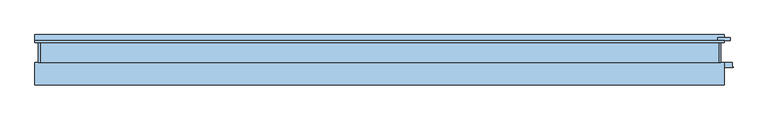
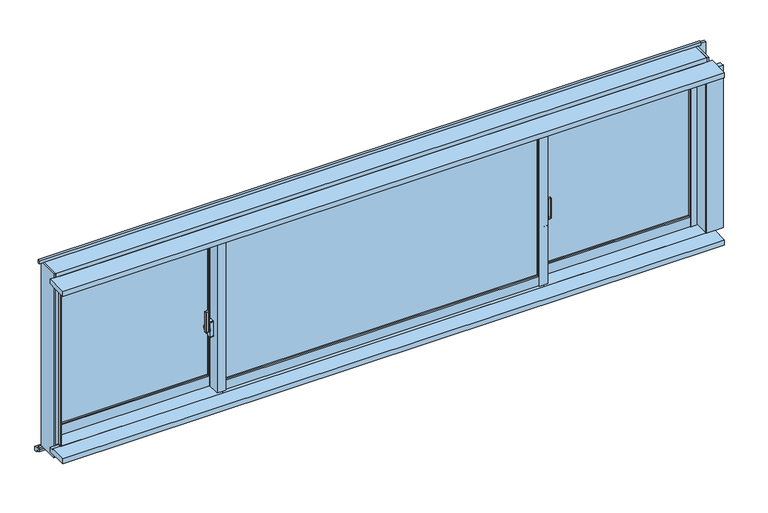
"""IFC4 building model written with IfcOpenShell, lengths in millimetres: window geometry, FNSⅡ100R_非防火_ALC枠_単窓 : 両袖片引."""

from ifc_helpers import new_model, si_unit, point, frame, frame_2d, origin, place, context, project, spatial, polyline, circle_curve, trimmed, segment, composite_curve, outline, extrude, faceted_brep, source, transform, mapped, element, save
from ifc_brep_helpers import plane_surface, cylinder_surface, revolved_surface, advanced_brep


def window_535b2269(model_context):
    return source(origin(), model_context, "Body", "SolidModel", [
        extrude(outline(polyline([(770.0, 62.0), (1468.0, 62.0), (1468.0, 56.0), (770.0, 56.0), (770.0, 62.0)])), frame((0.0, 0.0, 948.0), z_axis=(0.0, 0.0, 1.0), x_axis=(1.0, 0.0, 0.0)), (0.0, 0.0, 1.0), 712.0),
        extrude(outline(polyline([(770.0, 80.0), (1468.0, 80.0), (1468.0, 74.0), (770.0, 74.0), (770.0, 80.0)])), frame((0.0, 0.0, 948.0), z_axis=(0.0, 0.0, 1.0), x_axis=(1.0, 0.0, 0.0)), (0.0, 0.0, 1.0), 712.0),
        extrude(outline(composite_curve([segment(trimmed(circle_curve(frame_2d((791.0, 20.6)), 2.0), [point((789.0, 20.6))], [point((791.3606557, 22.5672131))], False, "CARTESIAN"), True, "CONTINUOUS"), segment(polyline([(791.3606557, 22.5672131), (802.3606557, 20.5505464)]), True, "CONTINUOUS"), segment(trimmed(circle_curve(frame_2d((802.0, 18.5833333)), 2.0), [point((802.3606557, 20.5505464))], [point((804.0, 18.5833333))], False, "CARTESIAN"), True, "CONTINUOUS"), segment(polyline([(804.0, 18.5833333), (804.0, 14.4166667)]), True, "CONTINUOUS"), segment(trimmed(circle_curve(frame_2d((802.0, 14.4166667)), 2.0), [point((804.0, 14.4166667))], [point((802.3606557, 12.4494536))], False, "CARTESIAN"), True, "CONTINUOUS"), segment(polyline([(802.3606557, 12.4494536), (791.3606557, 10.4327869)]), True, "CONTINUOUS"), segment(trimmed(circle_curve(frame_2d((791.0, 12.4)), 2.0), [point((791.3606557, 10.4327869))], [point((789.0, 12.4))], False, "CARTESIAN"), True, "CONTINUOUS"), segment(polyline([(789.0, 12.4), (789.0, 20.6)]), True, "CONTINUOUS")], self_intersect=False)), frame((0.0, 0.0, 1190.0), z_axis=(0.0, 0.0, 1.0), x_axis=(1.0, 0.0, 0.0)), (0.0, 0.0, 1.0), 100.0),
        advanced_brep(
        [(789.0, 22.6466117, 1179.3190372), (789.0, 21.4310745, 1186.2126915), (787.5, 21.4310745, 1186.2126915), (787.5, 22.907084, 1177.8418256), (795.5, 22.907084, 1177.8418256), (795.5, 22.6466117, 1179.3190372), (795.5, 24.8234285, 1221.7333311), (787.5, 24.8234285, 1221.7333311), (795.5, 24.4351999, 1220.2844424), (789.0, 24.4351999, 1220.2844424), (789.0, 22.6234666, 1213.5229616), (787.5, 22.6234666, 1213.5229616)],
        [
            (0, 1),
            (1, 2),
            (2, 3),
            (3, 4),
            (4, 5),
            (5, 0),
            (6, 4, circle_curve(frame((795.5, 19.0, 1200.0), z_axis=(-1.0, 0.0, 0.0), x_axis=(0.0, 0.25881904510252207, 0.965925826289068)), 22.5)),
            (3, 7, circle_curve(frame((787.5, 19.0, 1200.0), z_axis=(1.0, 0.0, 0.0), x_axis=(0.0, 0.25881904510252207, 0.965925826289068)), 22.5)),
            (7, 6),
            (8, 5, circle_curve(frame((795.5, 19.0, 1200.0), z_axis=(-1.0, 0.0, 0.0), x_axis=(0.0, 0.25881904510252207, 0.965925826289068)), 21.0)),
            (6, 8),
            (9, 0, circle_curve(frame((789.0, 19.0, 1200.0), z_axis=(-1.0, 0.0, 0.0), x_axis=(0.0, 0.25881904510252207, 0.965925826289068)), 21.0)),
            (8, 9),
            (9, 10),
            (10, 1, circle_curve(frame((789.0, 19.0, 1200.0), z_axis=(1.0, 0.0, 0.0), x_axis=(0.0, -1.0, 0.0)), 14.0)),
            (7, 11),
            (11, 10),
            (2, 11, circle_curve(frame((787.5, 19.0, 1200.0), z_axis=(-1.0, 0.0, 0.0), x_axis=(0.0, -1.0, 0.0)), 14.0)),
        ],
        [
            plane_surface(frame((793.5470497, 19.0, 1200.0), z_axis=(0.0, -0.9848077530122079, -0.17364817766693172), x_axis=(0.0, 0.17364817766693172, -0.9848077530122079))),
            cylinder_surface(frame((793.5470497, 19.0, 1200.0), z_axis=(1.0, 0.0, 0.0), x_axis=(0.0, 0.25881904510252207, 0.965925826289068)), 22.5),
            plane_surface(frame((795.5, 19.0, 1200.0), z_axis=(1.0, 0.0, 0.0), x_axis=(0.0, 0.25881904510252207, 0.965925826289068))),
            revolved_surface(polyline([(795.5, 24.435199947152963, 1220.2844423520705), (789.0, 24.435199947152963, 1220.2844423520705)]), (793.5470497, 19.0, 1200.0), (1.0, 0.0, 0.0)),
            plane_surface(frame((789.0, 19.0, 1200.0), z_axis=(1.0, 0.0, 0.0), x_axis=(0.0, 0.25881904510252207, 0.965925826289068))),
            plane_surface(frame((793.5470497, 19.0, 1200.0), z_axis=(0.0, -0.965925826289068, 0.25881904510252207), x_axis=(0.0, 0.25881904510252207, 0.965925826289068))),
            plane_surface(frame((787.5, 19.0, 1200.0), z_axis=(-1.0, 0.0, 0.0), x_axis=(0.0, 0.25881904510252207, 0.965925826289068))),
            cylinder_surface(frame((787.5, 19.0, 1200.0), z_axis=(1.0, 0.0, 0.0), x_axis=(0.0, -1.0, 0.0)), 14.0),
        ],
        [
            (0, [[1, 2, 3, 4, 5, 6]]),
            (1, [[7, -4, 8, 9]]),
            (2, [[10, -5, -7, 11]]),
            (3, [[12, -6, -10, 13]]),
            (4, [[14, 15, -1, -12]]),
            (5, [[16, 17, -14, -13, -11, -9]]),
            (6, [[-3, 18, -16, -8]]),
            (7, [[-17, -18, -2, -15]]),
        ],
    ),
        extrude(outline(composite_curve([segment(trimmed(circle_curve(frame_2d((19.0, 1200.0)), 11.5), [point((30.5, 1200.0))], [point((7.5, 1200.0))], False, "CARTESIAN"), True, "CONTINUOUS"), segment(trimmed(circle_curve(frame_2d((19.0, 1200.0)), 11.5), [point((7.5, 1200.0))], [point((30.5, 1200.0))], False, "CARTESIAN"), True, "CONTINUOUS")], self_intersect=False)), frame((785.0, 0.0, 0.0), z_axis=(1.0, 0.0, 0.0), x_axis=(0.0, 1.0, 0.0)), (0.0, 0.0, 1.0), 2.5),
        extrude(outline(composite_curve([segment(polyline([(10.0, 1237.5), (28.0, 1237.5)]), True, "CONTINUOUS"), segment(trimmed(circle_curve(frame_2d((28.0, 1235.5)), 2.0), [point((28.0, 1237.5))], [point((30.0, 1235.5))], False, "CARTESIAN"), True, "CONTINUOUS"), segment(polyline([(30.0, 1235.5), (30.0, 1164.5)]), True, "CONTINUOUS"), segment(trimmed(circle_curve(frame_2d((28.0, 1164.5)), 2.0), [point((30.0, 1164.5))], [point((28.0, 1162.5))], False, "CARTESIAN"), True, "CONTINUOUS"), segment(polyline([(28.0, 1162.5), (10.0, 1162.5)]), True, "CONTINUOUS"), segment(trimmed(circle_curve(frame_2d((10.0, 1164.5)), 2.0), [point((10.0, 1162.5))], [point((8.0, 1164.5))], False, "CARTESIAN"), True, "CONTINUOUS"), segment(polyline([(8.0, 1164.5), (8.0, 1235.5)]), True, "CONTINUOUS"), segment(trimmed(circle_curve(frame_2d((10.0, 1235.5)), 2.0), [point((8.0, 1235.5))], [point((10.0, 1237.5))], False, "CARTESIAN"), True, "CONTINUOUS")], self_intersect=False)), frame((770.0, 0.0, 0.0), z_axis=(1.0, 0.0, 0.0), x_axis=(0.0, 1.0, 0.0)), (0.0, 0.0, 1.0), 15.0),
        extrude(outline(composite_curve([segment(polyline([(-789.0, 20.6), (-789.0, 12.4)]), True, "CONTINUOUS"), segment(trimmed(circle_curve(frame_2d((-791.0, 12.4)), 2.0), [point((-789.0, 12.4))], [point((-791.3606557, 10.4327869))], False, "CARTESIAN"), True, "CONTINUOUS"), segment(polyline([(-791.3606557, 10.4327869), (-802.3606557, 12.4494536)]), True, "CONTINUOUS"), segment(trimmed(circle_curve(frame_2d((-802.0, 14.4166667)), 2.0), [point((-802.3606557, 12.4494536))], [point((-804.0, 14.4166667))], False, "CARTESIAN"), True, "CONTINUOUS"), segment(polyline([(-804.0, 14.4166667), (-804.0, 18.5833333)]), True, "CONTINUOUS"), segment(trimmed(circle_curve(frame_2d((-802.0, 18.5833333)), 2.0), [point((-804.0, 18.5833333))], [point((-802.3606557, 20.5505464))], False, "CARTESIAN"), True, "CONTINUOUS"), segment(polyline([(-802.3606557, 20.5505464), (-791.3606557, 22.5672131)]), True, "CONTINUOUS"), segment(trimmed(circle_curve(frame_2d((-791.0, 20.6)), 2.0), [point((-791.3606557, 22.5672131))], [point((-789.0, 20.6))], False, "CARTESIAN"), True, "CONTINUOUS")], self_intersect=False)), frame((0.0, 0.0, 1190.0), z_axis=(0.0, 0.0, 1.0), x_axis=(1.0, 0.0, 0.0)), (0.0, 0.0, 1.0), 100.0),
        advanced_brep(
        [(-789.0, 22.6466117, 1179.3190372), (-795.5, 22.6466117, 1179.3190372), (-795.5, 22.907084, 1177.8418256), (-787.5, 22.907084, 1177.8418256), (-787.5, 21.4310745, 1186.2126915), (-789.0, 21.4310745, 1186.2126915), (-795.5, 24.4351999, 1220.2844424), (-795.5, 24.8234285, 1221.7333311), (-787.5, 24.8234285, 1221.7333311), (-787.5, 22.6234666, 1213.5229616), (-789.0, 24.4351999, 1220.2844424), (-789.0, 22.6234666, 1213.5229616)],
        [
            (0, 1),
            (1, 2),
            (2, 3),
            (3, 4),
            (4, 5),
            (5, 0),
            (6, 7),
            (7, 2, circle_curve(frame((-795.5, 19.0, 1200.0), z_axis=(-1.0, 0.0, 0.0), x_axis=(0.0, 0.25881904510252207, 0.965925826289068)), 22.5)),
            (1, 6, circle_curve(frame((-795.5, 19.0, 1200.0), z_axis=(1.0, 0.0, 0.0), x_axis=(0.0, 0.25881904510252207, 0.965925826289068)), 21.0)),
            (3, 8, circle_curve(frame((-787.5, 19.0, 1200.0), z_axis=(1.0, 0.0, 0.0), x_axis=(0.0, 0.25881904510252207, 0.965925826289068)), 22.5)),
            (8, 9),
            (9, 4, circle_curve(frame((-787.5, 19.0, 1200.0), z_axis=(1.0, 0.0, 0.0), x_axis=(0.0, -1.0, 0.0)), 14.0)),
            (8, 7),
            (6, 10),
            (10, 11),
            (11, 9),
            (0, 10, circle_curve(frame((-789.0, 19.0, 1200.0), z_axis=(1.0, 0.0, 0.0), x_axis=(0.0, 0.25881904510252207, 0.965925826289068)), 21.0)),
            (5, 11, circle_curve(frame((-789.0, 19.0, 1200.0), z_axis=(-1.0, 0.0, 0.0), x_axis=(0.0, -1.0, 0.0)), 14.0)),
        ],
        [
            plane_surface(frame((-793.5470497, 19.0, 1200.0), z_axis=(0.0, -0.9848077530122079, -0.17364817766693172), x_axis=(0.0, 0.17364817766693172, -0.9848077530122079))),
            plane_surface(frame((-795.5, 19.0, 1200.0), z_axis=(-1.0, 0.0, 0.0), x_axis=(0.0, 0.25881904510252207, 0.965925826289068))),
            plane_surface(frame((-787.5, 19.0, 1200.0), z_axis=(1.0, 0.0, 0.0), x_axis=(0.0, 0.25881904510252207, 0.965925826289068))),
            plane_surface(frame((-793.5470497, 19.0, 1200.0), z_axis=(0.0, -0.965925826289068, 0.25881904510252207), x_axis=(0.0, 0.25881904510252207, 0.965925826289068))),
            cylinder_surface(frame((-793.5470497, 19.0, 1200.0), z_axis=(-1.0, 0.0, 0.0), x_axis=(0.0, 0.25881904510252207, 0.965925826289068)), 22.5),
            revolved_surface(polyline([(-795.5, 24.435199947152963, 1220.2844423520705), (-789.0, 24.435199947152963, 1220.2844423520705)]), (-793.5470497, 19.0, 1200.0), (-1.0, 0.0, 0.0)),
            plane_surface(frame((-789.0, 19.0, 1200.0), z_axis=(-1.0, 0.0, 0.0), x_axis=(0.0, 0.25881904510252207, 0.965925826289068))),
            cylinder_surface(frame((-787.5, 19.0, 1200.0), z_axis=(-1.0, 0.0, 0.0), x_axis=(0.0, -1.0, 0.0)), 14.0),
        ],
        [
            (0, [[1, 2, 3, 4, 5, 6]]),
            (1, [[7, 8, -2, 9]]),
            (2, [[10, 11, 12, -4]]),
            (3, [[13, -7, 14, 15, 16, -11]]),
            (4, [[-13, -10, -3, -8]]),
            (5, [[-14, -9, -1, 17]]),
            (6, [[-17, -6, 18, -15]]),
            (7, [[-18, -5, -12, -16]]),
        ],
    ),
        extrude(outline(composite_curve([segment(trimmed(circle_curve(frame_2d((19.0, 1200.0)), 11.5), [point((30.5, 1200.0))], [point((7.5, 1200.0))], False, "CARTESIAN"), True, "CONTINUOUS"), segment(trimmed(circle_curve(frame_2d((19.0, 1200.0)), 11.5), [point((7.5, 1200.0))], [point((30.5, 1200.0))], False, "CARTESIAN"), True, "CONTINUOUS")], self_intersect=False)), frame((-787.5, 0.0, 0.0), z_axis=(1.0, 0.0, 0.0), x_axis=(0.0, 1.0, 0.0)), (0.0, 0.0, 1.0), 2.5),
        extrude(outline(composite_curve([segment(polyline([(10.0, 1237.5), (28.0, 1237.5)]), True, "CONTINUOUS"), segment(trimmed(circle_curve(frame_2d((28.0, 1235.5)), 2.0), [point((28.0, 1237.5))], [point((30.0, 1235.5))], False, "CARTESIAN"), True, "CONTINUOUS"), segment(polyline([(30.0, 1235.5), (30.0, 1164.5)]), True, "CONTINUOUS"), segment(trimmed(circle_curve(frame_2d((28.0, 1164.5)), 2.0), [point((30.0, 1164.5))], [point((28.0, 1162.5))], False, "CARTESIAN"), True, "CONTINUOUS"), segment(polyline([(28.0, 1162.5), (10.0, 1162.5)]), True, "CONTINUOUS"), segment(trimmed(circle_curve(frame_2d((10.0, 1164.5)), 2.0), [point((10.0, 1162.5))], [point((8.0, 1164.5))], False, "CARTESIAN"), True, "CONTINUOUS"), segment(polyline([(8.0, 1164.5), (8.0, 1235.5)]), True, "CONTINUOUS"), segment(trimmed(circle_curve(frame_2d((10.0, 1235.5)), 2.0), [point((8.0, 1235.5))], [point((10.0, 1237.5))], False, "CARTESIAN"), True, "CONTINUOUS")], self_intersect=False)), frame((-785.0, 0.0, 0.0), z_axis=(1.0, 0.0, 0.0), x_axis=(0.0, 1.0, 0.0)), (0.0, 0.0, 1.0), 15.0),
        extrude(outline(polyline([(-730.0, 4.0), (730.0, 4.0), (730.0, -2.0), (-730.0, -2.0), (-730.0, 4.0)])), frame((0.0, 0.0, 948.0), z_axis=(0.0, 0.0, 1.0), x_axis=(1.0, 0.0, 0.0)), (0.0, 0.0, 1.0), 712.0),
        extrude(outline(polyline([(-730.0, 22.0), (730.0, 22.0), (730.0, 16.0), (-730.0, 16.0), (-730.0, 22.0)])), frame((0.0, 0.0, 948.0), z_axis=(0.0, 0.0, 1.0), x_axis=(1.0, 0.0, 0.0)), (0.0, 0.0, 1.0), 712.0),
        extrude(outline(polyline([(-1468.0, 62.0), (-770.0, 62.0), (-770.0, 56.0), (-1468.0, 56.0), (-1468.0, 62.0)])), frame((0.0, 0.0, 948.0), z_axis=(0.0, 0.0, 1.0), x_axis=(1.0, 0.0, 0.0)), (0.0, 0.0, 1.0), 712.0),
        extrude(outline(polyline([(-1468.0, 80.0), (-770.0, 80.0), (-770.0, 74.0), (-1468.0, 74.0), (-1468.0, 80.0)])), frame((0.0, 0.0, 948.0), z_axis=(0.0, 0.0, 1.0), x_axis=(1.0, 0.0, 0.0)), (0.0, 0.0, 1.0), 712.0),
        faceted_brep([(-1500.0, 59.0, 1700.0), (-1489.5, 59.0, 1700.0), (-1489.5, 46.0, 1700.0), (-1468.0, 46.0, 1700.0), (-1468.0, 88.0, 1700.0), (-1500.0, 88.0, 1700.0), (-1500.0, 59.0, 860.0), (-1468.0, 59.0, 860.0), (-1468.0, 59.0, 900.0), (-1489.5, 59.0, 900.0), (-1500.0, 88.0, 860.0), (-1468.0, 88.0, 860.0), (-1489.5, 46.0, 900.0), (-1468.0, 46.0, 900.0)], [[[0, 1, 2, 3, 4, 5]], [[1, 0, 6, 7, 8, 9]], [[7, 6, 10, 11]], [[2, 1, 9, 12]], [[3, 2, 12, 13]], [[4, 3, 13, 8, 7, 11]], [[5, 4, 11, 10]], [[6, 0, 5, 10]], [[9, 8, 13, 12]]]),
        faceted_brep([(1500.0, 59.0, 1700.0), (1500.0, 88.0, 1700.0), (1468.0, 88.0, 1700.0), (1468.0, 46.0, 1700.0), (1489.5, 46.0, 1700.0), (1489.5, 59.0, 1700.0), (1489.5, 46.0, 860.0), (1489.5, 59.0, 860.0), (1500.0, 59.0, 860.0), (1468.0, 46.0, 860.0), (1468.0, 59.0, 860.0), (1468.0, 88.0, 860.0), (1500.0, 88.0, 860.0), (1468.0, 46.0, 900.0)], [[[0, 1, 2, 3, 4, 5]], [[5, 4, 6, 7]], [[8, 7, 6, 9, 10, 11, 12]], [[1, 0, 8, 12]], [[2, 1, 12, 11]], [[3, 2, 11, 10, 9, 13]], [[4, 3, 13, 9, 6]], [[0, 5, 7, 8]]]),
        faceted_brep([(-751.8, 45.5, 1700.0), (-770.0, 45.5, 1700.0), (-770.0, 45.5, 900.0), (-751.8, 45.5, 900.0), (-751.8, 33.1, 1700.0), (-751.8, 33.1, 900.0), (-730.0, 59.0, 900.0), (-770.0, 59.0, 900.0), (-770.0, 59.0, 860.0), (-730.0, 59.0, 860.0), (-730.0, 33.1, 1700.0), (-730.0, 88.0, 1700.0), (-770.0, 88.0, 1700.0), (-770.0, 88.0, 860.0), (-730.0, 88.0, 860.0), (-730.0, 33.1, 900.0)], [[[0, 1, 2, 3]], [[4, 0, 3, 5]], [[6, 7, 8, 9]], [[1, 0, 4, 10, 11, 12]], [[13, 14, 9, 8]], [[10, 4, 5, 15]], [[11, 10, 15, 6, 9, 14]], [[12, 11, 14, 13]], [[1, 12, 13, 8, 7, 2]], [[7, 6, 15, 5, 3, 2]]]),
        faceted_brep([(770.0, 59.0, 900.0), (730.0, 59.0, 900.0), (730.0, 59.0, 860.0), (770.0, 59.0, 860.0), (770.0, 88.0, 1700.0), (770.0, 45.5, 1700.0), (770.0, 45.5, 900.0), (770.0, 88.0, 860.0), (730.0, 88.0, 1700.0), (730.0, 88.0, 860.0), (730.0, 33.1, 1700.0), (751.8, 33.1, 1700.0), (751.8, 45.5, 1700.0), (751.8, 45.5, 900.0), (751.8, 33.1, 900.0), (730.0, 33.1, 900.0)], [[[0, 1, 2, 3]], [[4, 5, 6, 0, 3, 7]], [[8, 4, 7, 9]], [[5, 4, 8, 10, 11, 12]], [[9, 7, 3, 2]], [[1, 0, 6, 13, 14, 15]], [[10, 8, 9, 2, 1, 15]], [[11, 10, 15, 14]], [[12, 11, 14, 13]], [[5, 12, 13, 6]]]),
        extrude(outline(polyline([(-770.0, 33.1), (-765.0, 33.1), (-765.0, -12.0), (-735.0, -12.0), (-735.0, -8.0), (-730.0, -8.0), (-730.0, -20.0), (-770.0, -20.0), (-770.0, 33.1)])), frame((0.0, 0.0, 900.0), z_axis=(0.0, 0.0, 1.0), x_axis=(1.0, 0.0, 0.0)), (0.0, 0.0, 1.0), 800.0),
        extrude(outline(polyline([(770.0, 33.1), (770.0, -20.0), (730.0, -20.0), (730.0, -8.0), (735.0, -8.0), (735.0, -12.0), (765.0, -12.0), (765.0, 33.1), (770.0, 33.1)])), frame((0.0, 0.0, 900.0), z_axis=(0.0, 0.0, 1.0), x_axis=(1.0, 0.0, 0.0)), (0.0, 0.0, 1.0), 800.0),
        extrude(outline(polyline([(-765.0, 33.1), (-730.0, 33.1), (-730.0, -8.0), (-735.0, -8.0), (-735.0, -12.0), (-765.0, -12.0), (-765.0, 33.1)])), frame((0.0, 0.0, 900.0), z_axis=(0.0, 0.0, 1.0), x_axis=(1.0, 0.0, 0.0)), (0.0, 0.0, 1.0), 800.0),
        extrude(outline(polyline([(765.0, 33.1), (765.0, -12.0), (735.0, -12.0), (735.0, -8.0), (730.0, -8.0), (730.0, 33.1), (765.0, 33.1)])), frame((0.0, 0.0, 900.0), z_axis=(0.0, 0.0, 1.0), x_axis=(1.0, 0.0, 0.0)), (0.0, 0.0, 1.0), 800.0),
        extrude(outline(polyline([(-751.8, 45.5), (-751.8, 38.0), (-770.0, 38.0), (-770.0, 45.5), (-751.8, 45.5)])), frame((0.0, 0.0, 900.0), z_axis=(0.0, 0.0, 1.0), x_axis=(1.0, 0.0, 0.0)), (0.0, 0.0, 1.0), 800.0),
        extrude(outline(polyline([(751.8, 45.5), (770.0, 45.5), (770.0, 38.0), (751.8, 38.0), (751.8, 45.5)])), frame((0.0, 0.0, 900.0), z_axis=(0.0, 0.0, 1.0), x_axis=(1.0, 0.0, 0.0)), (0.0, 0.0, 1.0), 800.0),
        extrude(outline(polyline([(-1497.0, 59.0), (-1489.5, 59.0), (-1489.5, 46.0), (-1468.0, 46.0), (-1468.0, 38.0), (-1497.0, 38.0), (-1497.0, 59.0)])), frame((0.0, 0.0, 900.0), z_axis=(0.0, 0.0, 1.0), x_axis=(1.0, 0.0, 0.0)), (0.0, 0.0, 1.0), 800.0),
        extrude(outline(polyline([(1497.0, 59.0), (1497.0, 38.0), (1468.0, 38.0), (1468.0, 46.0), (1489.5, 46.0), (1489.5, 59.0), (1497.0, 59.0)])), frame((0.0, 0.0, 900.0), z_axis=(0.0, 0.0, 1.0), x_axis=(1.0, 0.0, 0.0)), (0.0, 0.0, 1.0), 800.0),
        extrude(outline(polyline([(40.0, 948.0), (48.0, 948.0), (48.0, 925.5), (59.0, 925.5), (59.0, 900.0), (40.0, 900.0), (40.0, 948.0)])), frame((770.0, 0.0, 0.0), z_axis=(1.0, 0.0, 0.0), x_axis=(0.0, 1.0, 0.0)), (0.0, 0.0, 1.0), 698.0),
        extrude(outline(polyline([(88.0, 860.0), (59.0, 860.0), (59.0, 925.5), (48.0, 925.5), (48.0, 948.0), (88.0, 948.0), (88.0, 860.0)])), frame((770.0, 0.0, 0.0), z_axis=(1.0, 0.0, 0.0), x_axis=(0.0, 1.0, 0.0)), (0.0, 0.0, 1.0), 698.0),
        extrude(outline(polyline([(-18.0, 903.0), (-18.0, 948.0), (-10.0, 948.0), (-10.0, 925.5), (1.0, 925.5), (1.0, 903.0), (-18.0, 903.0)])), frame((-730.0, 0.0, 0.0), z_axis=(1.0, 0.0, 0.0), x_axis=(0.0, 1.0, 0.0)), (0.0, 0.0, 1.0), 1460.0),
        extrude(outline(polyline([(30.0, 900.0), (1.0, 900.0), (1.0, 925.5), (-10.0, 925.5), (-10.0, 948.0), (30.0, 948.0), (30.0, 900.0)])), frame((-730.0, 0.0, 0.0), z_axis=(1.0, 0.0, 0.0), x_axis=(0.0, 1.0, 0.0)), (0.0, 0.0, 1.0), 1460.0),
        extrude(outline(polyline([(40.0, 948.0), (48.0, 948.0), (48.0, 925.5), (59.0, 925.5), (59.0, 900.0), (40.0, 900.0), (40.0, 948.0)])), frame((-1468.0, 0.0, 0.0), z_axis=(1.0, 0.0, 0.0), x_axis=(0.0, 1.0, 0.0)), (0.0, 0.0, 1.0), 698.0),
        extrude(outline(polyline([(88.0, 860.0), (59.0, 860.0), (59.0, 925.5), (48.0, 925.5), (48.0, 948.0), (88.0, 948.0), (88.0, 860.0)])), frame((-1468.0, 0.0, 0.0), z_axis=(1.0, 0.0, 0.0), x_axis=(0.0, 1.0, 0.0)), (0.0, 0.0, 1.0), 698.0),
        extrude(outline(polyline([(88.0, 1700.0), (88.0, 1660.0), (48.0, 1660.0), (48.0, 1680.5), (61.0, 1680.5), (61.0, 1700.0), (88.0, 1700.0)])), frame((770.0, 0.0, 0.0), z_axis=(1.0, 0.0, 0.0), x_axis=(0.0, 1.0, 0.0)), (0.0, 0.0, 1.0), 698.0),
        extrude(outline(polyline([(61.0, 1680.5), (48.0, 1680.5), (48.0, 1660.0), (40.0, 1660.0), (40.0, 1700.0), (61.0, 1700.0), (61.0, 1680.5)])), frame((770.0, 0.0, 0.0), z_axis=(1.0, 0.0, 0.0), x_axis=(0.0, 1.0, 0.0)), (0.0, 0.0, 1.0), 698.0),
        extrude(outline(polyline([(3.0, 1680.5), (-10.0, 1680.5), (-10.0, 1660.0), (-18.0, 1660.0), (-18.0, 1700.0), (3.0, 1700.0), (3.0, 1680.5)])), frame((-730.0, 0.0, 0.0), z_axis=(1.0, 0.0, 0.0), x_axis=(0.0, 1.0, 0.0)), (0.0, 0.0, 1.0), 1460.0),
        extrude(outline(polyline([(30.0, 1700.0), (30.0, 1660.0), (-10.0, 1660.0), (-10.0, 1680.5), (3.0, 1680.5), (3.0, 1700.0), (30.0, 1700.0)])), frame((-730.0, 0.0, 0.0), z_axis=(1.0, 0.0, 0.0), x_axis=(0.0, 1.0, 0.0)), (0.0, 0.0, 1.0), 1460.0),
        extrude(outline(polyline([(61.0, 1680.5), (48.0, 1680.5), (48.0, 1660.0), (40.0, 1660.0), (40.0, 1700.0), (61.0, 1700.0), (61.0, 1680.5)])), frame((-1468.0, 0.0, 0.0), z_axis=(1.0, 0.0, 0.0), x_axis=(0.0, 1.0, 0.0)), (0.0, 0.0, 1.0), 698.0),
        extrude(outline(polyline([(88.0, 1700.0), (88.0, 1660.0), (48.0, 1660.0), (48.0, 1680.5), (61.0, 1680.5), (61.0, 1700.0), (88.0, 1700.0)])), frame((-1468.0, 0.0, 0.0), z_axis=(1.0, 0.0, 0.0), x_axis=(0.0, 1.0, 0.0)), (0.0, 0.0, 1.0), 698.0),
        faceted_brep([(-747.5, -1.0, 900.0), (-747.5, 27.3, 900.0), (-747.5, 27.3, 884.0), (-747.5, -1.0, 884.0), (1515.0, 90.0, 840.0), (1515.0, 90.0, 849.0), (1515.0, 56.0, 849.0), (1515.0, 56.0, 884.0), (1515.0, -10.0, 884.0), (1515.0, -10.0, 840.0), (-1515.0, -10.0, 884.0), (-1515.0, -10.0, 840.0), (-1515.0, 90.0, 840.0), (-1515.0, 90.0, 849.0), (-1515.0, 56.0, 884.0), (747.5, 27.3, 884.0), (747.5, -1.0, 884.0), (-1515.0, 56.0, 849.0), (747.5, -1.0, 900.0), (747.5, 27.3, 900.0)], [[[0, 1, 2, 3]], [[4, 5, 6, 7, 8, 9]], [[9, 8, 10, 11]], [[5, 4, 12, 13]], [[8, 7, 14, 10], [15, 16, 3, 2]], [[7, 6, 17, 14]], [[6, 5, 13, 17]], [[4, 9, 11, 12]], [[12, 11, 10, 14, 17, 13]], [[18, 16, 15, 19]], [[16, 18, 0, 3]], [[19, 15, 2, 1]], [[18, 19, 1, 0]]]),
        extrude(outline(polyline([(-1.0, 884.0), (-10.0, 884.0), (-10.0, 897.0), (-30.0, 897.0), (-30.0, 900.0), (-1.0, 900.0), (-1.0, 884.0)])), frame((-747.5, 0.0, 0.0), z_axis=(1.0, 0.0, 0.0), x_axis=(0.0, 1.0, 0.0)), (0.0, 0.0, 1.0), 1495.0),
        extrude(outline(polyline([(-10.0, 884.0), (-10.0, 897.0), (-30.0, 897.0), (-30.0, 900.0), (56.0, 900.0), (56.0, 884.0), (-10.0, 884.0)])), frame((747.5, 0.0, 0.0), z_axis=(1.0, 0.0, 0.0), x_axis=(0.0, 1.0, 0.0)), (0.0, 0.0, 1.0), 752.5),
        extrude(outline(polyline([(-10.0, 884.0), (-10.0, 897.0), (-30.0, 897.0), (-30.0, 900.0), (56.0, 900.0), (56.0, 884.0), (-10.0, 884.0)])), frame((-1503.0, 0.0, 0.0), z_axis=(1.0, 0.0, 0.0), x_axis=(0.0, 1.0, 0.0)), (0.0, 0.0, 1.0), 755.5),
        faceted_brep([(1515.0, 90.0, 1700.0), (1515.0, 90.0, 1745.0), (1515.0, -10.0, 1745.0), (1515.0, -10.0, 1725.0), (1515.0, 60.3, 1725.0), (1515.0, 60.3, 1700.0), (-1515.0, 90.0, 1700.0), (-1515.0, 60.3, 1700.0), (-1515.0, 60.3, 1725.0), (-1515.0, -10.0, 1725.0), (-1515.0, -10.0, 1745.0), (-1515.0, 90.0, 1745.0), (-747.5, 60.3, 1725.0), (-747.5, 3.0, 1725.0), (747.5, 3.0, 1725.0), (747.5, 60.3, 1725.0), (747.5, 60.3, 1700.0), (-747.5, 60.3, 1700.0), (747.5, 3.0, 1700.0), (-747.5, 3.0, 1700.0)], [[[0, 1, 2, 3, 4, 5]], [[6, 7, 8, 9, 10, 11]], [[4, 3, 9, 8, 12, 13, 14, 15]], [[5, 4, 15, 16]], [[8, 7, 17, 12]], [[0, 5, 16, 18, 19, 17, 7, 6]], [[1, 0, 6, 11]], [[2, 1, 11, 10]], [[3, 2, 10, 9]], [[14, 18, 16, 15]], [[17, 19, 13, 12]], [[18, 14, 13, 19]]]),
        extrude(outline(polyline([(3.0, 1725.0), (3.0, 1700.0), (-30.0, 1700.0), (-30.0, 1703.0), (-10.0, 1703.0), (-10.0, 1725.0), (3.0, 1725.0)])), frame((-747.5, 0.0, 0.0), z_axis=(1.0, 0.0, 0.0), x_axis=(0.0, 1.0, 0.0)), (0.0, 0.0, 1.0), 1495.0),
        extrude(outline(polyline([(60.3, 1700.0), (-30.0, 1700.0), (-30.0, 1703.0), (-10.0, 1703.0), (-10.0, 1725.0), (60.3, 1725.0), (60.3, 1700.0)])), frame((747.5, 0.0, 0.0), z_axis=(1.0, 0.0, 0.0), x_axis=(0.0, 1.0, 0.0)), (0.0, 0.0, 1.0), 752.5),
        extrude(outline(polyline([(60.3, 1700.0), (-30.0, 1700.0), (-30.0, 1703.0), (-10.0, 1703.0), (-10.0, 1725.0), (60.3, 1725.0), (60.3, 1700.0)])), frame((-1500.0, 0.0, 0.0), z_axis=(1.0, 0.0, 0.0), x_axis=(0.0, 1.0, 0.0)), (0.0, 0.0, 1.0), 752.5),
        faceted_brep([(1500.0, -10.0, 1720.0), (1515.0, -10.0, 1720.0), (1515.0, 56.0, 1720.0), (1500.0, 56.0, 1720.0), (1500.0, -30.0, 900.0), (1503.0, -30.0, 900.0), (1503.0, -30.0, 1703.0), (1500.0, -30.0, 1703.0), (1500.0, 56.0, 900.0), (1515.0, 56.0, 900.0), (1515.0, -10.0, 900.0), (1503.0, -10.0, 900.0), (1503.0, -10.0, 1703.0), (1500.0, -10.0, 1703.0)], [[[0, 1, 2, 3]], [[4, 5, 6, 7]], [[4, 8, 9, 10, 11, 5]], [[5, 11, 12, 6]], [[0, 13, 12, 11, 10, 1]], [[2, 1, 10, 9]], [[3, 2, 9, 8]], [[8, 4, 7, 13, 0, 3]], [[12, 13, 7, 6]]]),
        faceted_brep([(-1515.0, -10.0, 900.0), (-1503.0, -10.0, 900.0), (-1503.0, -10.0, 1703.0), (-1500.0, -10.0, 1703.0), (-1500.0, -10.0, 1720.0), (-1515.0, -10.0, 1720.0), (-1503.0, -30.0, 900.0), (-1500.0, -30.0, 900.0), (-1500.0, -30.0, 1703.0), (-1503.0, -30.0, 1703.0), (-1500.0, 56.0, 1720.0), (-1515.0, 56.0, 1720.0), (-1515.0, 56.0, 900.0), (-1500.0, 56.0, 900.0)], [[[0, 1, 2, 3, 4, 5]], [[6, 7, 8, 9]], [[5, 4, 10, 11]], [[0, 12, 13, 7, 6, 1]], [[1, 6, 9, 2]], [[7, 13, 10, 4, 3, 8]], [[11, 10, 13, 12]], [[0, 5, 11, 12]], [[3, 2, 9, 8]]]),
        faceted_brep([(-1525.0, 90.0, 1745.0), (-1515.0, 90.0, 1745.0), (-1515.0, 90.0, 1700.0), (-1500.0, 90.0, 1700.0), (-1500.0, 90.0, 849.0), (-1515.0, 90.0, 849.0), (-1515.0, 90.0, 840.0), (-1525.0, 90.0, 840.0), (-1525.0, -10.0, 1745.0), (-1515.0, -10.0, 1745.0), (-1515.0, -10.0, 840.0), (-1525.0, -10.0, 840.0), (-1515.0, 56.0, 849.0), (-1515.0, 56.0, 1700.0), (-1500.0, 56.0, 1700.0), (-1500.0, 56.0, 849.0)], [[[0, 1, 2, 3, 4, 5, 6, 7]], [[0, 8, 9, 1]], [[7, 6, 10, 11]], [[8, 0, 7, 11]], [[9, 8, 11, 10]], [[1, 9, 10, 6, 5, 12, 13, 2]], [[3, 2, 13, 14]], [[4, 15, 12, 5]], [[14, 13, 12, 15]], [[3, 14, 15, 4]]]),
        faceted_brep([(1515.0, 56.0, 1700.0), (1500.0, 56.0, 1700.0), (1500.0, 56.0, 849.0), (1515.0, 56.0, 849.0), (1515.0, -10.0, 1745.0), (1525.0, -10.0, 1745.0), (1525.0, 90.0, 1745.0), (1515.0, 90.0, 1745.0), (1515.0, -10.0, 840.0), (1515.0, 90.0, 840.0), (1525.0, 90.0, 840.0), (1525.0, -10.0, 840.0), (1500.0, 90.0, 1700.0), (1500.0, 90.0, 849.0), (1515.0, 90.0, 1700.0), (1515.0, 90.0, 849.0)], [[[0, 1, 2, 3]], [[4, 5, 6, 7]], [[8, 9, 10, 11]], [[1, 12, 13, 2]], [[1, 0, 14, 12]], [[2, 13, 15, 3]], [[5, 4, 8, 11]], [[6, 5, 11, 10]], [[7, 6, 10, 9, 15, 13, 12, 14]], [[4, 7, 14, 0, 3, 15, 9, 8]]]),
        extrude(outline(polyline([(-110.0, 900.0), (-30.0, 900.0), (-30.0, 897.0), (-10.0, 897.0), (-10.0, 875.0), (-110.0, 875.0), (-110.0, 900.0)])), frame((-1540.0, 0.0, 0.0), z_axis=(1.0, 0.0, 0.0), x_axis=(0.0, 1.0, 0.0)), (0.0, 0.0, 1.0), 3080.0),
        extrude(outline(polyline([(-1540.0, 80.0), (-1540.0, 90.0), (1540.0, 90.0), (1540.0, 80.0), (-1540.0, 80.0)])), frame((0.0, 0.0, 830.0), z_axis=(0.0, 0.0, 1.0), x_axis=(1.0, 0.0, 0.0)), (0.0, 0.0, 1.0), 10.0),
        extrude(outline(polyline([(100.0, 807.0), (100.0, 820.0), (80.0, 820.0), (80.0, 830.0), (90.0, 830.0), (115.0, 825.0), (115.0, 807.0), (100.0, 807.0)])), frame((-1540.0, 0.0, 0.0), z_axis=(1.0, 0.0, 0.0), x_axis=(0.0, 1.0, 0.0)), (0.0, 0.0, 1.0), 3080.0),
        extrude(outline(polyline([(1503.0, -30.0), (1503.0, -10.0), (1577.0, -10.0), (1577.0, -30.0), (1580.0, -30.0), (1580.0, -32.5), (1500.0, -32.5), (1500.0, -30.0), (1503.0, -30.0)])), frame((0.0, 0.0, 900.0), z_axis=(0.0, 0.0, 1.0), x_axis=(1.0, 0.0, 0.0)), (0.0, 0.0, 1.0), 800.0),
        extrude(outline(polyline([(1567.5, 90.0), (1512.5, 90.0), (1512.5, 102.0), (1567.5, 102.0), (1567.5, 90.0)])), frame((0.0, 0.0, 840.0), z_axis=(0.0, 0.0, 1.0), x_axis=(1.0, 0.0, 0.0)), (0.0, 0.0, 1.0), 905.0),
        extrude(outline(polyline([(-110.0, 1725.0), (-10.0, 1725.0), (-10.0, 1703.0), (-30.0, 1703.0), (-30.0, 1700.0), (-110.0, 1700.0), (-110.0, 1725.0)])), frame((-1540.0, 0.0, 0.0), z_axis=(1.0, 0.0, 0.0), x_axis=(0.0, 1.0, 0.0)), (0.0, 0.0, 1.0), 3080.0),
        extrude(outline(polyline([(-1540.0, 80.0), (-1540.0, 90.0), (1540.0, 90.0), (1540.0, 80.0), (-1540.0, 80.0)])), frame((0.0, 0.0, 1745.0), z_axis=(0.0, 0.0, 1.0), x_axis=(1.0, 0.0, 0.0)), (0.0, 0.0, 1.0), 15.0),
    ])


if __name__ == "__main__":
    model = new_model("IFC4")
    model_context = context("Model", 3, world=origin())
    ifc_project = project(units=[si_unit("LENGTHUNIT", "METRE", prefix="MILLI")], contexts=[model_context])
    site = spatial("IfcSite", under=ifc_project)
    building = spatial("IfcBuilding", under=site)
    placement = place(None, origin())
    window_shape = window_535b2269(model_context)
    element("IfcWindow", 1, ObjectType="FNSⅡ100R_非防火_ALC枠_単窓 : 両袖片引", at=placement, inside=building, context=model_context, shape_type="MappedRepresentation", body=[
        mapped(window_shape, transform((0.0, 0.0, 0.0), x_axis=(1.0, 0.0, 0.0), y_axis=(0.0, 1.0, 0.0), z_axis=(0.0, 0.0, 1.0))),
    ])
    save(model, "model.ifc")
